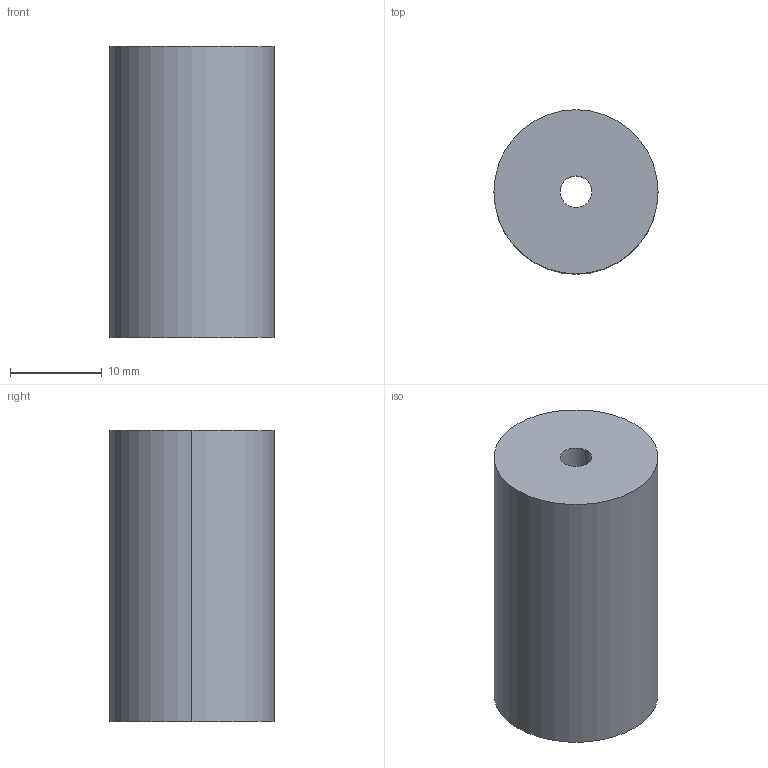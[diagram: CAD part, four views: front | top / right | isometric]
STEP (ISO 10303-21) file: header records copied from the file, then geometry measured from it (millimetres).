
FILE_DESCRIPTION (( 'STEP AP203' ), '1' );
FILE_NAME ('FDPCK-.5PULTRUD-ENDTHRD-8-32.step', '2019-09-11T18:21:23', ( 'ydmin' ), ( '' ), 'SwSTEP 2.0', 'SolidWorks 2017', '' );
FILE_SCHEMA (( 'CONFIG_CONTROL_DESIGN' ));
Length unit declared in the file: inch
Products named in the file (1): FDPCK-.5PULTRUD-ENDTHRD-8-32
Bounding box: 17.91 x 17.91 x 31.75 mm (x, y, z)
Volume: 5164.7 mm3; surface area: 3182.1 mm2
Topology: 1 solids, 1 shells, 10 faces, 24 edges, 16 vertices
Faces by surface type: cylinder 6, cone 2, plane 2
Entity records: 387 total; most frequent: DIRECTION 62, CARTESIAN_POINT 51, ORIENTED_EDGE 48, AXIS2_PLACEMENT_3D 27, EDGE_CURVE 24, VERTEX_POINT 16, CIRCLE 16, EDGE_LOOP 12
